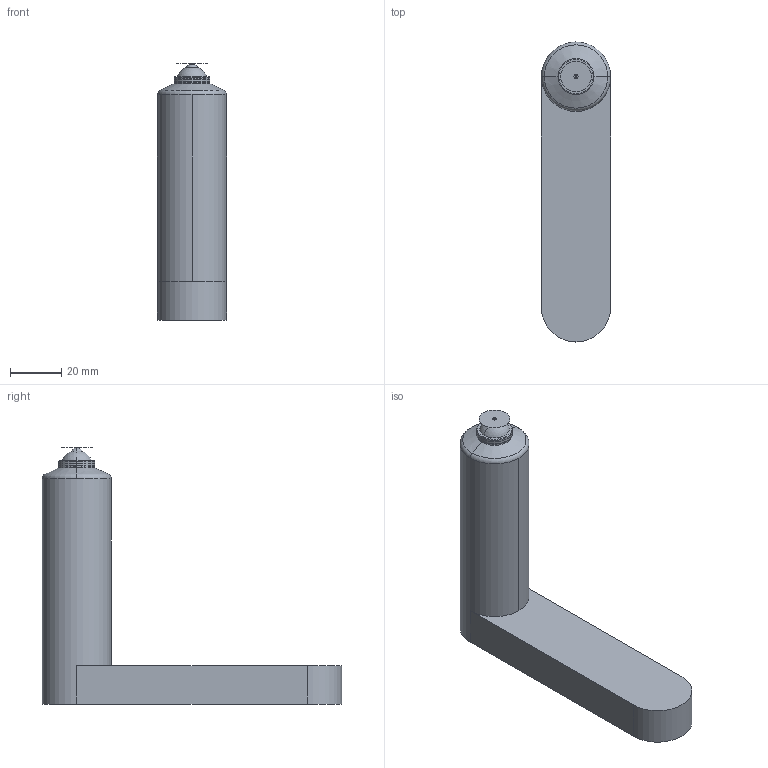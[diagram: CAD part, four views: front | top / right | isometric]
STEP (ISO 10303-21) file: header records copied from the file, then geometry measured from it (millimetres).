
FILE_DESCRIPTION (( 'STEP AP214' ), '1' );
FILE_NAME ('09E-03-100-TTW-C.STEP', '2023-01-03T12:33:00', ( '' ), ( '' ), 'SwSTEP 2.0', 'SolidWorks 2018', '' );
FILE_SCHEMA (( 'AUTOMOTIVE_DESIGN' ));
Length unit declared in the file: millimetre
Products named in the file (3): 09E-03-100-TTW-C; cutout_09E-03-100-TTW-C; nozzle_09E-03-100-TTW-C
Assembly tree (2 placements, depth 2):
  09E-03-100-TTW-C
    nozzle_09E-03-100-TTW-C
    cutout_09E-03-100-TTW-C
Bounding box: 27 x 117 x 100 mm (x, y, z)
Volume: 89245.4 mm3; surface area: 41847.2 mm2
Topology: 1 solids, 4 shells, 256 faces, 671 edges, 424 vertices
Faces by surface type: cylinder 116, plane 73, cone 41, torus 18, bspline 4, sphere 4
Entity records: 11933 total; most frequent: CARTESIAN_POINT 5386, DIRECTION 1396, ORIENTED_EDGE 1340, EDGE_CURVE 671, AXIS2_PLACEMENT_3D 555, VERTEX_POINT 424, CIRCLE 297, LINE 286
